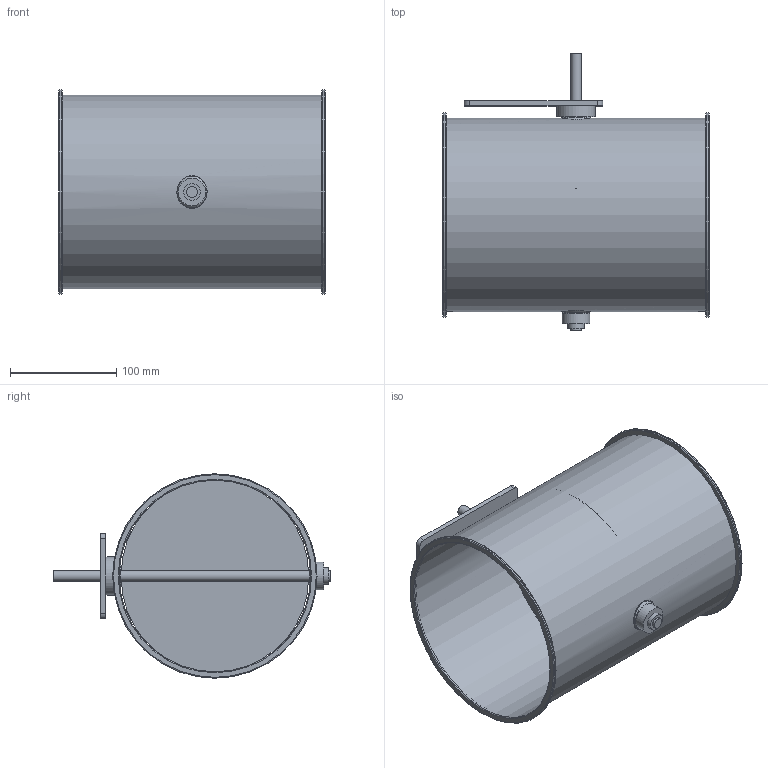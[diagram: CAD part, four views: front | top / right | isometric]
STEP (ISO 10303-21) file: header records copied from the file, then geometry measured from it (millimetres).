
FILE_DESCRIPTION(/* description */ (''),/* implementation_level */ '2;1');
FILE_NAME(/* name */ 'EA126-80B__180_L250_Belimo_Typ_LM.stp',/* time_stamp */ '2017-12-06T13:54:57+01:00',/* author */ (''),/* organization */ (''),/* preprocessor_version */ 'ST-DEVELOPER v11',/* originating_system */ 'SIEMENS UGS NX 6.0',/* authorisation */ '');
FILE_SCHEMA (('CONFIG_CONTROL_DESIGN'));
Length unit declared in the file: millimetre
Products named in the file (1): gars18E2j22x
Bounding box: 250 x 261 x 192 mm (x, y, z)
Volume: 245521.7 mm3; surface area: 387147.5 mm2
Topology: 8 solids, 8 shells, 76 faces, 161 edges, 109 vertices
Faces by surface type: plane 30, cylinder 28, torus 10, cone 4, bspline 4
Full cylindrical faces by diameter (mm): 4.1 x4, 10 x3, 15 x3, 15.85 x2, 16 x2, 24 x2, 26 x1, 36 x1, 180 x1, 181.6 x1, 192 x2
Entity records: 2394 total; most frequent: CARTESIAN_POINT 871, DIRECTION 310, ORIENTED_EDGE 204, EDGE_LOOP 148, AXIS2_PLACEMENT_3D 143, FACE_BOUND 134, EDGE_CURVE 102, VERTEX_POINT 90
